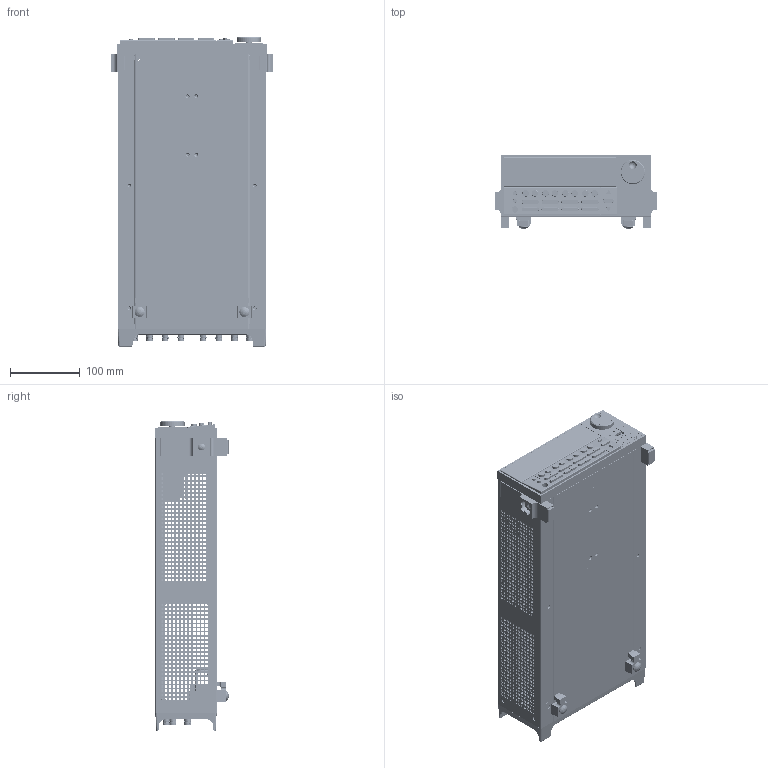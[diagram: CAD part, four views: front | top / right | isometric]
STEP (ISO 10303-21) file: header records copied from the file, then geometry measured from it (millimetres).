
FILE_DESCRIPTION((''),'2;1');
FILE_NAME('2636B_ASM','2019-04-10T',('ngratzl'),(''),'CREO PARAMETRIC BY PTC INC, 2016050','CREO PARAMETRIC BY PTC INC, 2016050','');
FILE_SCHEMA(('CONFIG_CONTROL_DESIGN'));
Length unit declared in the file: inch
Products named in the file (51): 2602-301; 2636B-303; 2636B-304; 2636B-303_ASM; LF-11-PURCHPART; CS-507; CS-1150; CS-1209; CS-1032; 2602B-140_ASM; CA-357-2-ASSY; CA-358-ASSY; 428-319; FE-6; 2602A-305; 2602-306; 2602A-325_ASM; 2602A-315; 2602-316; 2602A-315_ASM; 2602-011-ENG; 2602-326; SW-515-1; 6-32X1-4PPHSEM; 4-40X3-8PFH; CA-311-4INSTALLED; 2602A-313; 2001-371; 236-305-1; GCS-1-2; 2000-324; GCS-1-2_ASM; 2636B-312; 2636B-311_ASM; 2636B-FRONT-PANEL_ASM; CS-995; 2636A-100_ASM; 2602A-310; 2602-329; 2600-TOP-COVER_ASM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
Assembly tree (62 placements, depth 5):
  2636B_ASM
    2602-301
    2636B-303_ASM
      2636B-303
      2636B-304
    LF-11-PURCHPART
    2602B-140_ASM
      CS-507
      CS-1150
      CS-1209  x2
      CS-1032
    CA-357-2-ASSY
    CA-358-ASSY
    428-319  x2
    FE-6  x2
    2636B-FRONT-PANEL_ASM
      2602A-325_ASM
        2602A-305
        2602-306
      2602A-315_ASM
        2602A-315
        2602-316
      2602-011-ENG
      2602-326
      SW-515-1
      6-32X1-4PPHSEM  x2
      4-40X3-8PFH  x2
      CA-311-4INSTALLED
      2602A-313
      2001-371  x2
      236-305-1
      2636B-311_ASM
        GCS-1-2_ASM
          GCS-1-2
          2000-324
        2636B-312
    2636A-100_ASM  x2
      CS-995
    2600-TOP-COVER_ASM
      2602A-310
      2602-329
    428-303
    2602-352-RIGHT-EAR-MICRO_ASM
      2602-352
      FA-230-2
      FE-22
    2602-354-LEFT-EAR-MICRO_ASM
      2602-354
      FA-230-2
      FE-22
    2636-130_ASM
      CS-1421-3
      CS-995-NUTLESS  x2
Bounding box: 231.65 x 105.44 x 444.3 mm (x, y, z)
Volume: 836845.4 mm3; surface area: 1014948 mm2
Topology: 76 solids, 80 shells, 17872 faces, 50371 edges, 33221 vertices
Faces by surface type: plane 15340, cylinder 2051, cone 365, torus 67, sphere 28, bspline 15, extrusion 6
Entity records: 625909 total; most frequent: CARTESIAN_POINT 93989, ORIENTED_EDGE 90018, DIRECTION 79885, EDGE_CURVE 45009, VECTOR 41387, LINE 41383, PRESENTATION_STYLE_ASSIGNMENT 34950, STYLED_ITEM 34864
